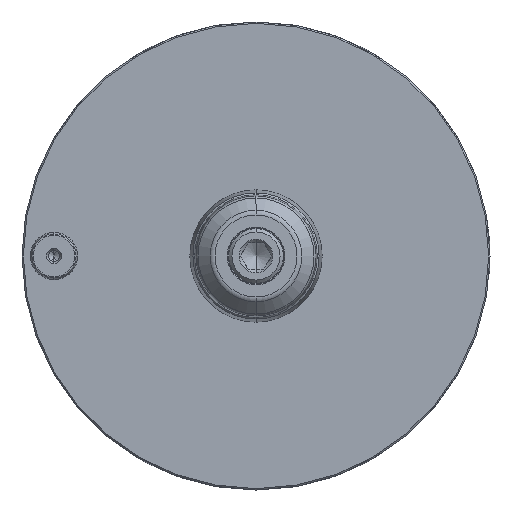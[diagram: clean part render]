
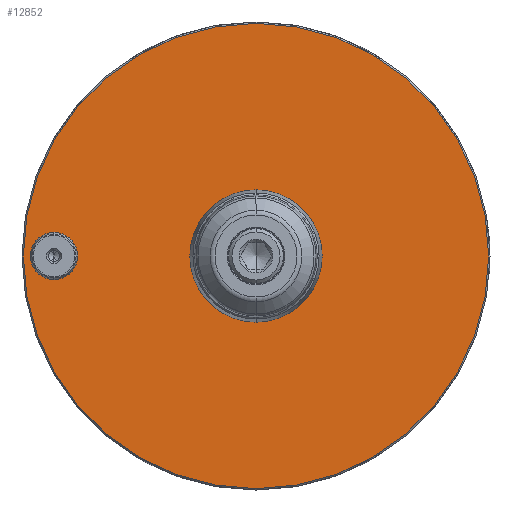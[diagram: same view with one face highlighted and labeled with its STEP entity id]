
A CAD part, left-side view. The second image highlights one B-rep face of the part: STEP entity #12852.
In plain terms, the highlighted planar face has unit normal (-1, 0, 0).
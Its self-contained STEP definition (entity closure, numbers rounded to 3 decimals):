
#46 = CIRCLE ( 'NONE', #13365, 69.1 ) ;
#183 = DIRECTION ( 'NONE',  ( 0., -0.707, 0.707 ) ) ;
#1098 = CIRCLE ( 'NONE', #21969, 6.4 ) ;
#1164 = DIRECTION ( 'NONE',  ( -1., 0., 0. ) ) ;
#1245 = LINE ( 'NONE', #13085, #13015 ) ;
#1298 = CARTESIAN_POINT ( 'NONE',  ( 0., 0., 68.998 ) ) ;
#1598 = ORIENTED_EDGE ( 'NONE', *, *, #19096, .T. ) ;
#1787 = VERTEX_POINT ( 'NONE', #2006 ) ;
#2006 = CARTESIAN_POINT ( 'NONE',  ( 0., 0., -12.9 ) ) ;
#2589 = PLANE ( 'NONE',  #5430 ) ;
#3389 = EDGE_LOOP ( 'NONE', ( #21521, #9604 ) ) ;
#3496 = EDGE_LOOP ( 'NONE', ( #12868, #11625 ) ) ;
#3648 = CARTESIAN_POINT ( 'NONE',  ( 0., 0., 0. ) ) ;
#3771 = ORIENTED_EDGE ( 'NONE', *, *, #13397, .T. ) ;
#4329 = CARTESIAN_POINT ( 'NONE',  ( 0., 0., 12.9 ) ) ;
#4832 = DIRECTION ( 'NONE',  ( -1., 0., 0. ) ) ;
#4897 = CARTESIAN_POINT ( 'NONE',  ( 0., 60., -6.4 ) ) ;
#5085 = EDGE_CURVE ( 'NONE', #6176, #13072, #19505, .T. ) ;
#5108 = DIRECTION ( 'NONE',  ( 0., 0., 1. ) ) ;
#5191 = AXIS2_PLACEMENT_3D ( 'NONE', #8241, #4832, #11727 ) ;
#5226 = DIRECTION ( 'NONE',  ( 0., 0., 1. ) ) ;
#5321 = DIRECTION ( 'NONE',  ( 0., 0., 1. ) ) ;
#5430 = AXIS2_PLACEMENT_3D ( 'NONE', #9688, #9462, #21736 ) ;
#5442 = CIRCLE ( 'NONE', #13016, 69.1 ) ;
#6033 = VERTEX_POINT ( 'NONE', #16666 ) ;
#6176 = VERTEX_POINT ( 'NONE', #16729 ) ;
#6896 = CARTESIAN_POINT ( 'NONE',  ( 0., 60., 6.4 ) ) ;
#6964 = LINE ( 'NONE', #15601, #19462 ) ;
#7298 = DIRECTION ( 'NONE',  ( -1., 0., 0. ) ) ;
#7528 = CARTESIAN_POINT ( 'NONE',  ( 0., 0., 0. ) ) ;
#8138 = DIRECTION ( 'NONE',  ( 0., -0.707, -0.707 ) ) ;
#8166 = DIRECTION ( 'NONE',  ( 0., 0., 1. ) ) ;
#8241 = CARTESIAN_POINT ( 'NONE',  ( 0., 0., 0. ) ) ;
#8367 = CIRCLE ( 'NONE', #18037, 6.4 ) ;
#8749 = CARTESIAN_POINT ( 'NONE',  ( 0., 60., 0. ) ) ;
#9299 = CARTESIAN_POINT ( 'NONE',  ( 0., 0.102, 69.1 ) ) ;
#9462 = DIRECTION ( 'NONE',  ( 1., 0., 0. ) ) ;
#9604 = ORIENTED_EDGE ( 'NONE', *, *, #19618, .F. ) ;
#9688 = CARTESIAN_POINT ( 'NONE',  ( 0., 12.9, 0. ) ) ;
#9958 = VECTOR ( 'NONE', #20170, 1000. ) ;
#9981 = VERTEX_POINT ( 'NONE', #4329 ) ;
#10302 = DIRECTION ( 'NONE',  ( -1., 0., 0. ) ) ;
#10689 = VERTEX_POINT ( 'NONE', #6896 ) ;
#11422 = VERTEX_POINT ( 'NONE', #9299 ) ;
#11497 = FACE_BOUND ( 'NONE', #3389, .T. ) ;
#11625 = ORIENTED_EDGE ( 'NONE', *, *, #21643, .F. ) ;
#11727 = DIRECTION ( 'NONE',  ( 0., 0., 1. ) ) ;
#11767 = ORIENTED_EDGE ( 'NONE', *, *, #19457, .T. ) ;
#12123 = ORIENTED_EDGE ( 'NONE', *, *, #5085, .T. ) ;
#12812 = LINE ( 'NONE', #17589, #19511 ) ;
#12852 = ADVANCED_FACE ( 'NONE', ( #11497, #21622, #18012 ), #2589, .F. ) ;
#12868 = ORIENTED_EDGE ( 'NONE', *, *, #21971, .F. ) ;
#12890 = CARTESIAN_POINT ( 'NONE',  ( 0., 60., 0. ) ) ;
#13015 = VECTOR ( 'NONE', #8138, 1000. ) ;
#13016 = AXIS2_PLACEMENT_3D ( 'NONE', #3648, #20879, #5226 ) ;
#13072 = VERTEX_POINT ( 'NONE', #1298 ) ;
#13085 = CARTESIAN_POINT ( 'NONE',  ( 0., -4.977, -73.975 ) ) ;
#13365 = AXIS2_PLACEMENT_3D ( 'NONE', #7528, #7298, #15921 ) ;
#13397 = EDGE_CURVE ( 'NONE', #6033, #6176, #5442, .T. ) ;
#13465 = DIRECTION ( 'NONE',  ( -1., 0., 0. ) ) ;
#14542 = VERTEX_POINT ( 'NONE', #18986 ) ;
#14625 = EDGE_CURVE ( 'NONE', #13072, #11422, #12812, .T. ) ;
#15601 = CARTESIAN_POINT ( 'NONE',  ( 0., 0., -68.998 ) ) ;
#15781 = DIRECTION ( 'NONE',  ( 0., 0.707, 0.707 ) ) ;
#15908 = VERTEX_POINT ( 'NONE', #19711 ) ;
#15921 = DIRECTION ( 'NONE',  ( 0., 0., 1. ) ) ;
#16322 = ORIENTED_EDGE ( 'NONE', *, *, #14625, .T. ) ;
#16666 = CARTESIAN_POINT ( 'NONE',  ( 0., -0.102, -69.1 ) ) ;
#16729 = CARTESIAN_POINT ( 'NONE',  ( 0., -0.102, 69.1 ) ) ;
#17327 = EDGE_LOOP ( 'NONE', ( #1598, #3771, #12123, #16322, #11767, #18156 ) ) ;
#17589 = CARTESIAN_POINT ( 'NONE',  ( 0., 0., 68.998 ) ) ;
#17611 = EDGE_CURVE ( 'NONE', #10689, #19670, #1098, .T. ) ;
#17799 = AXIS2_PLACEMENT_3D ( 'NONE', #20865, #10302, #5321 ) ;
#17823 = CARTESIAN_POINT ( 'NONE',  ( 0., -4.977, 73.975 ) ) ;
#18012 = FACE_OUTER_BOUND ( 'NONE', #17327, .T. ) ;
#18037 = AXIS2_PLACEMENT_3D ( 'NONE', #8749, #13465, #5108 ) ;
#18156 = ORIENTED_EDGE ( 'NONE', *, *, #18711, .T. ) ;
#18711 = EDGE_CURVE ( 'NONE', #14542, #15908, #6964, .T. ) ;
#18986 = CARTESIAN_POINT ( 'NONE',  ( 0., 0.102, -69.1 ) ) ;
#19096 = EDGE_CURVE ( 'NONE', #15908, #6033, #1245, .T. ) ;
#19457 = EDGE_CURVE ( 'NONE', #11422, #14542, #46, .T. ) ;
#19462 = VECTOR ( 'NONE', #183, 1000. ) ;
#19505 = LINE ( 'NONE', #17823, #9958 ) ;
#19511 = VECTOR ( 'NONE', #15781, 1000. ) ;
#19618 = EDGE_CURVE ( 'NONE', #19670, #10689, #8367, .T. ) ;
#19670 = VERTEX_POINT ( 'NONE', #4897 ) ;
#19711 = CARTESIAN_POINT ( 'NONE',  ( 0., 0., -68.998 ) ) ;
#19938 = CIRCLE ( 'NONE', #5191, 12.9 ) ;
#20170 = DIRECTION ( 'NONE',  ( 0., 0.707, -0.707 ) ) ;
#20865 = CARTESIAN_POINT ( 'NONE',  ( 0., 0., 0. ) ) ;
#20879 = DIRECTION ( 'NONE',  ( -1., 0., 0. ) ) ;
#21521 = ORIENTED_EDGE ( 'NONE', *, *, #17611, .F. ) ;
#21622 = FACE_BOUND ( 'NONE', #3496, .T. ) ;
#21643 = EDGE_CURVE ( 'NONE', #1787, #9981, #19938, .T. ) ;
#21736 = DIRECTION ( 'NONE',  ( 0., 0., -1. ) ) ;
#21969 = AXIS2_PLACEMENT_3D ( 'NONE', #12890, #1164, #8166 ) ;
#21971 = EDGE_CURVE ( 'NONE', #9981, #1787, #22139, .T. ) ;
#22139 = CIRCLE ( 'NONE', #17799, 12.9 ) ;
